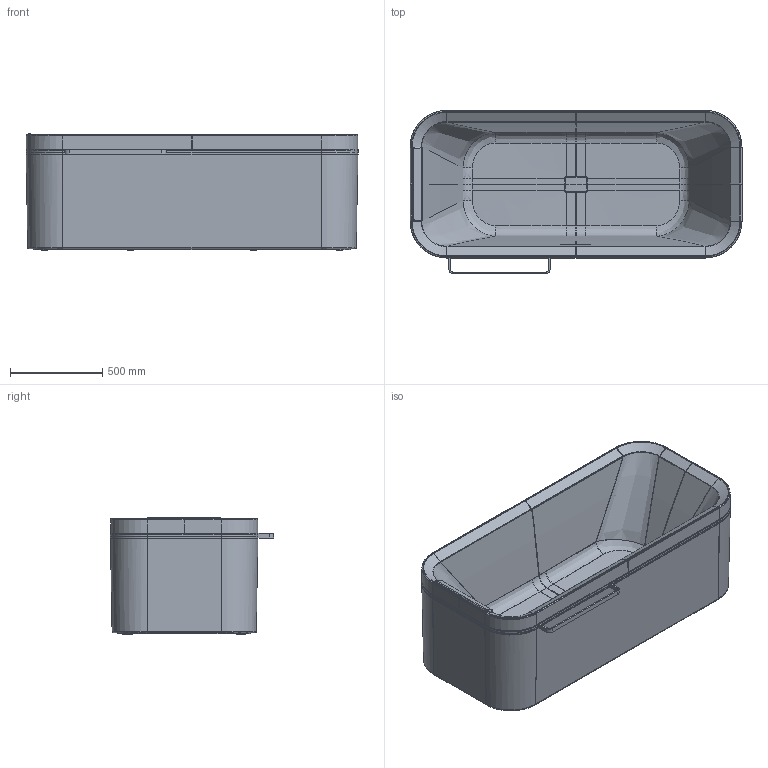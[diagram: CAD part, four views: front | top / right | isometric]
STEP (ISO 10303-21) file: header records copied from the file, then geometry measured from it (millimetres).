
FILE_DESCRIPTION(('STEP AP203'),'2;1');
FILE_NAME('DIV21808C.stp','2017-07-25T10:26:16',(''),(''),'2016.1.120','THINKDESIGN','');
FILE_SCHEMA(('CONFIG_CONTROL_DESIGN'));
Length unit declared in the file: millimetre
Products named in the file (1): top
Bounding box: 1801.03 x 886.03 x 638.17 mm (x, y, z)
Volume: 17558731.7 mm3; surface area: 12557879.7 mm2
Topology: 9 solids, 9 shells, 1165 faces, 2956 edges, 1782 vertices
Faces by surface type: plane 404, cylinder 396, bspline 365
Entity records: 52729 total; most frequent: CARTESIAN_POINT 26672, ORIENTED_EDGE 5892, DIRECTION 4724, EDGE_CURVE 2946, VERTEX_POINT 1782, AXIS2_PLACEMENT_3D 1591, VECTOR 1542, LINE 1542
